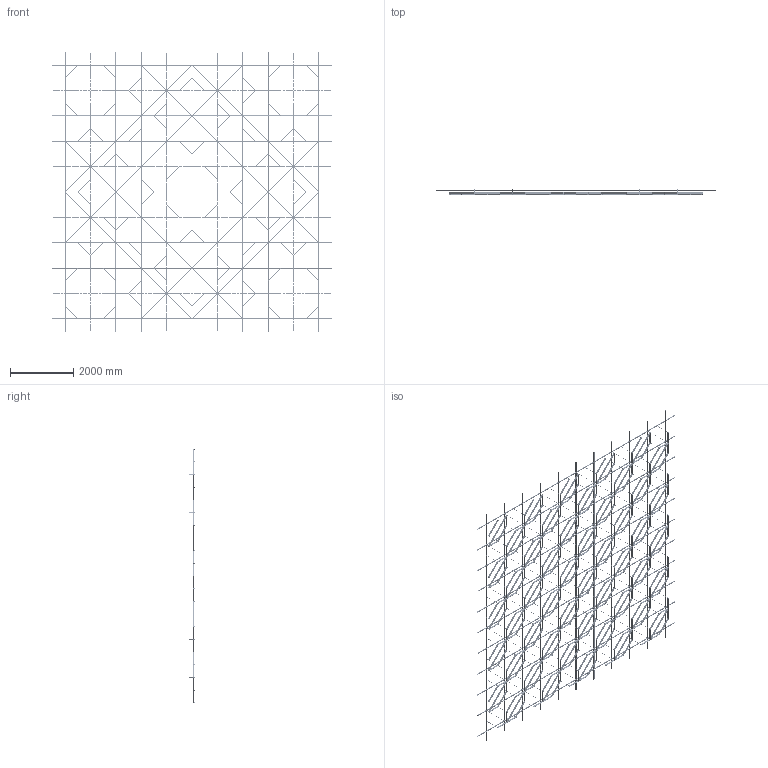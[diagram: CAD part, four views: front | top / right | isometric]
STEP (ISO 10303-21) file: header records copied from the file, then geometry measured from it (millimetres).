
FILE_DESCRIPTION (( 'STEP AP203' ), '1' );
FILE_NAME ('15 ìèíè ñ ïñ.step', '2025-11-25T12:59:00', ( '' ), ( '' ), 'SwSTEP 2.0', 'SolidWorks 2020', '' );
FILE_SCHEMA (( 'CONFIG_CONTROL_DESIGN' ));
Products named in the file (5): Var15; SS.SEMA.2400 - Ñèìà-ïðîôèëü — îáðåçàí 1600; 15 ìèíè ñ ïñ; SS.SEMA.2400 - Ñèìà-ïðîôèëü; Ñèñòåìà â çîíå 8000õ8000
Assembly tree (90 placements, depth 3):
  15 ìèíè ñ ïñ
    Ñèñòåìà â çîíå 8000õ8000
      SS.SEMA.2400 - Ñèìà-ïðîôèëü  x66
      SS.SEMA.2400 - Ñèìà-ïðîôèëü — îáðåçàí 1600  x22
    Var15
Bounding box: 8800 x 158 x 8800 mm (x, y, z)
Volume: 151140157.7 mm3; surface area: 67045249.7 mm2
Topology: 1708 solids, 1708 shells, 23980 faces, 60284 edges, 39720 vertices
Faces by surface type: cylinder 14098, plane 9882
Entity records: 188391 total; most frequent: CARTESIAN_POINT 46994, ORIENTED_EDGE 27416, DIRECTION 26274, EDGE_CURVE 13708, AXIS2_PLACEMENT_3D 12888, VERTEX_POINT 9128, B_SPLINE_CURVE_WITH_KNOTS 8240, EDGE_LOOP 7986
